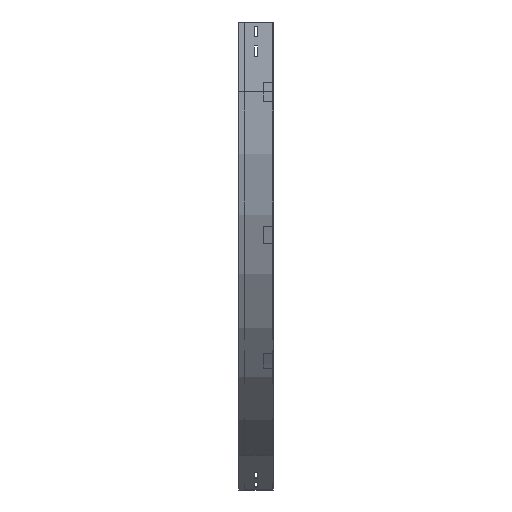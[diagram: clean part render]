
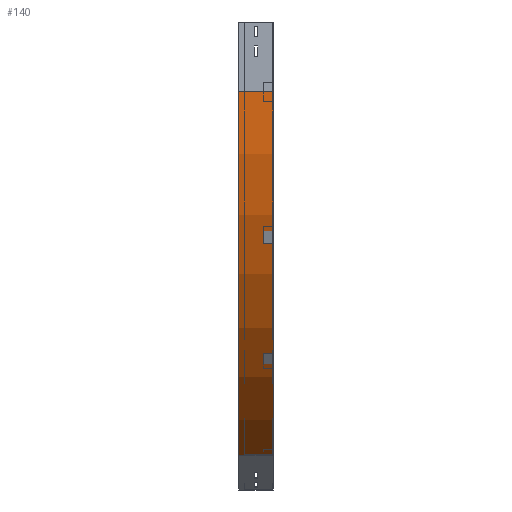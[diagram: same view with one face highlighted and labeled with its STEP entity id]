
A CAD part, left-side view. The second image highlights one B-rep face of the part: STEP entity #140.
In plain terms, the highlighted cylindrical face has radius 900 mm (diameter 1800 mm), a partial arc.
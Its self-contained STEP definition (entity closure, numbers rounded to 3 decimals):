
#131 = DIRECTION ( 'NONE',  ( 0., -1., 0. ) ) ;
#138 = ORIENTED_EDGE ( 'NONE', *, *, #3506, .T. ) ;
#140 = ADVANCED_FACE ( 'NONE', ( #1146 ), #2354, .T. ) ;
#293 = VERTEX_POINT ( 'NONE', #3357 ) ;
#335 = ORIENTED_EDGE ( 'NONE', *, *, #1145, .F. ) ;
#615 = CIRCLE ( 'NONE', #3668, 900. ) ;
#858 = DIRECTION ( 'NONE',  ( 0., -1., 0. ) ) ;
#887 = CARTESIAN_POINT ( 'NONE',  ( 450., 75., -929.423 ) ) ;
#950 = VECTOR ( 'NONE', #2501, 1000. ) ;
#961 = CARTESIAN_POINT ( 'NONE',  ( 450., 0., -929.423 ) ) ;
#992 = CARTESIAN_POINT ( 'NONE',  ( 900., 75., -150. ) ) ;
#997 = VERTEX_POINT ( 'NONE', #887 ) ;
#1076 = AXIS2_PLACEMENT_3D ( 'NONE', #1951, #131, #1932 ) ;
#1092 = EDGE_CURVE ( 'NONE', #1356, #1369, #2539, .T. ) ;
#1145 = EDGE_CURVE ( 'NONE', #1369, #293, #2827, .T. ) ;
#1146 = FACE_OUTER_BOUND ( 'NONE', #2246, .T. ) ;
#1188 = LINE ( 'NONE', #961, #3360 ) ;
#1244 = DIRECTION ( 'NONE',  ( 0., -1., 0. ) ) ;
#1356 = VERTEX_POINT ( 'NONE', #3395 ) ;
#1369 = VERTEX_POINT ( 'NONE', #2454 ) ;
#1483 = AXIS2_PLACEMENT_3D ( 'NONE', #3528, #858, #2410 ) ;
#1932 = DIRECTION ( 'NONE',  ( -1., 0., 0. ) ) ;
#1951 = CARTESIAN_POINT ( 'NONE',  ( 900., 0., -150. ) ) ;
#2187 = CARTESIAN_POINT ( 'NONE',  ( 0., 0., -150. ) ) ;
#2246 = EDGE_LOOP ( 'NONE', ( #335, #3762, #138, #2371 ) ) ;
#2354 = CYLINDRICAL_SURFACE ( 'NONE', #1483, 900. ) ;
#2371 = ORIENTED_EDGE ( 'NONE', *, *, #3110, .T. ) ;
#2393 = DIRECTION ( 'NONE',  ( 0., -1., 0. ) ) ;
#2410 = DIRECTION ( 'NONE',  ( 0., 0., -1. ) ) ;
#2454 = CARTESIAN_POINT ( 'NONE',  ( 0., 0., -150. ) ) ;
#2501 = DIRECTION ( 'NONE',  ( 0., -1., 0. ) ) ;
#2539 = LINE ( 'NONE', #2187, #950 ) ;
#2827 = CIRCLE ( 'NONE', #1076, 900. ) ;
#3110 = EDGE_CURVE ( 'NONE', #997, #293, #1188, .T. ) ;
#3357 = CARTESIAN_POINT ( 'NONE',  ( 450., 0., -929.423 ) ) ;
#3360 = VECTOR ( 'NONE', #2393, 1000. ) ;
#3369 = DIRECTION ( 'NONE',  ( -1., 0., 0. ) ) ;
#3395 = CARTESIAN_POINT ( 'NONE',  ( 0., 75., -150. ) ) ;
#3506 = EDGE_CURVE ( 'NONE', #1356, #997, #615, .T. ) ;
#3528 = CARTESIAN_POINT ( 'NONE',  ( 900., 0., -150. ) ) ;
#3668 = AXIS2_PLACEMENT_3D ( 'NONE', #992, #1244, #3369 ) ;
#3762 = ORIENTED_EDGE ( 'NONE', *, *, #1092, .F. ) ;
